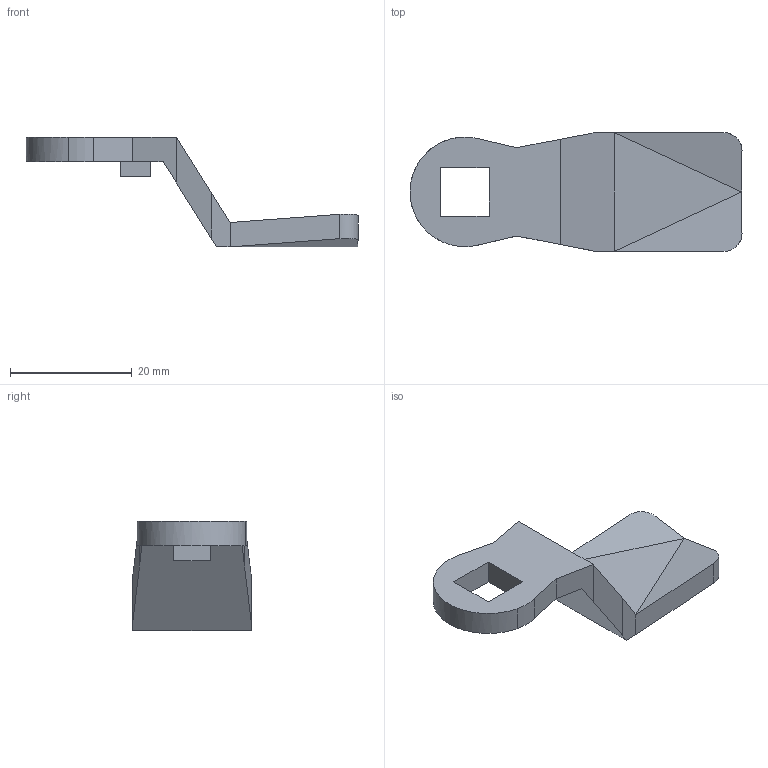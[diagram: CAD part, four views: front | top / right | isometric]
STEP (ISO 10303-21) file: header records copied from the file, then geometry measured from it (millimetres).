
FILE_DESCRIPTION (( 'STEP AP214' ), '1' );
FILE_NAME ('1.4047 Salpa -14.STEP', '2025-08-06T08:58:06', ( '' ), ( '' ), 'SwSTEP 2.0', 'SolidWorks 2025', '' );
FILE_SCHEMA (( 'AUTOMOTIVE_DESIGN' ));
Length unit declared in the file: millimetre
Products named in the file (1): 1.4047 Salpa -14
Bounding box: 54.5 x 19.5 x 18 mm (x, y, z)
Volume: 4199.5 mm3; surface area: 2862.3 mm2
Topology: 1 solids, 1 shells, 35 faces, 84 edges, 52 vertices
Faces by surface type: plane 31, cylinder 4
Entity records: 1201 total; most frequent: CARTESIAN_POINT 532, ORIENTED_EDGE 168, EDGE_CURVE 84, B_SPLINE_CURVE_WITH_KNOTS 84, DIRECTION 72, VERTEX_POINT 52, EDGE_LOOP 38, AXIS2_PLACEMENT_3D 36
